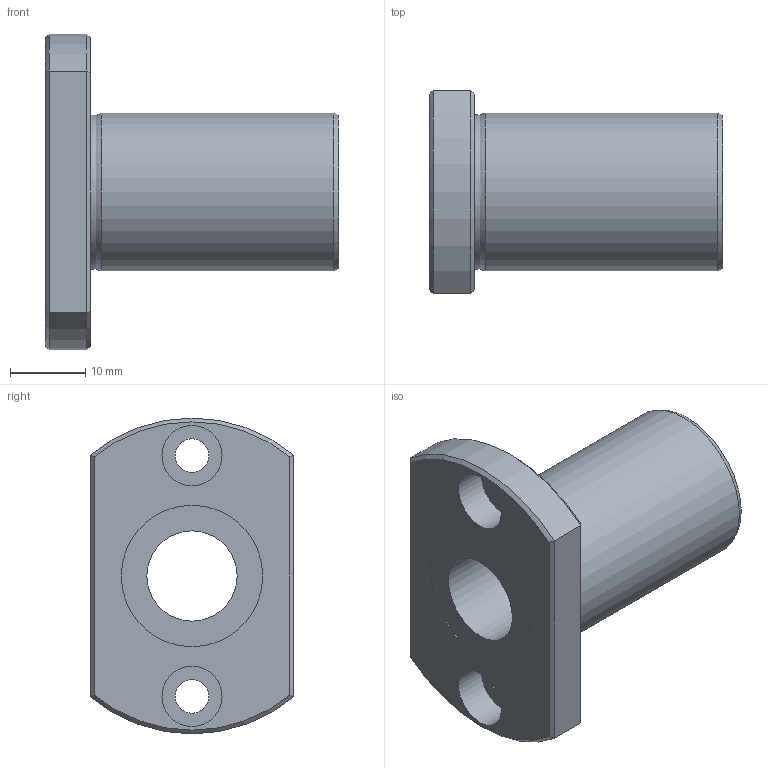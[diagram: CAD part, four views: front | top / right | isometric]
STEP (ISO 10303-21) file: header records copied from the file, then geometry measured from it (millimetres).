
FILE_DESCRIPTION((''),'2;1');
FILE_NAME('D:\製品 (図面)\カタログ用3D\メンテナンスフリー関連\STEP形式\LFT-MF\LFT12MF.stp','2010-06-01T16:07:04',('Tsuchiya'),(''),'Autodesk Inventor 10','Autodesk Inventor 10','');
FILE_SCHEMA(('AUTOMOTIVE_DESIGN { 1 0 10303 214 1 1 1 1 }'));
Length unit declared in the file: millimetre
Products named in the file (1): LFT12MF
Bounding box: 39 x 27 x 42 mm (x, y, z)
Volume: 12742.2 mm3; surface area: 6390.5 mm2
Topology: 1 solids, 1 shells, 29 faces, 56 edges, 34 vertices
Faces by surface type: plane 13, cylinder 10, cone 4, torus 1, bspline 1
Full cylindrical faces by diameter (mm): 4.5 x2, 8 x2, 12 x1, 18.8 x2, 21 x1
Entity records: 787 total; most frequent: CARTESIAN_POINT 196, DIRECTION 122, ORIENTED_EDGE 92, AXIS2_PLACEMENT_3D 55, EDGE_LOOP 50, EDGE_CURVE 46, VERTEX_POINT 34, FACE_OUTER_BOUND 29
